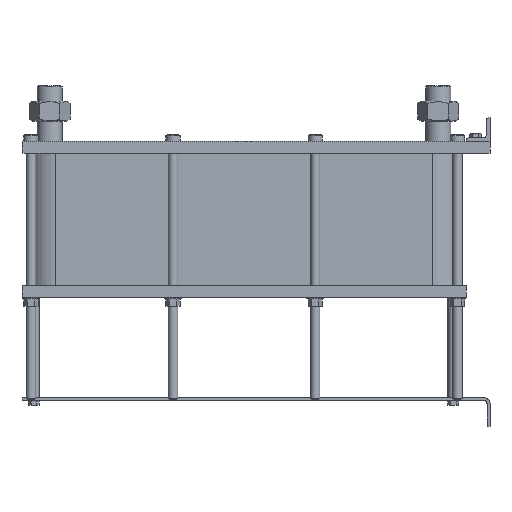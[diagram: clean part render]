
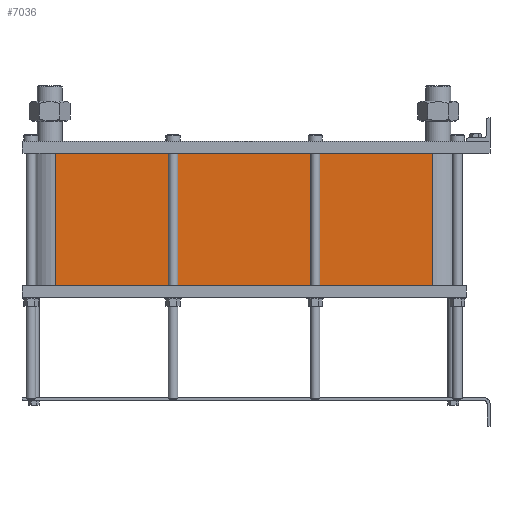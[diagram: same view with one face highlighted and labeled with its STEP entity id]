
A CAD part, left-side view. The second image highlights one B-rep face of the part: STEP entity #7036.
In plain terms, the highlighted planar face has unit normal (-1, 0, 0).
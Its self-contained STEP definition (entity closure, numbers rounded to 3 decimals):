
#999=LINE('',#15640,#1553);
#1031=LINE('',#15723,#1585);
#1032=LINE('',#15726,#1586);
#1033=LINE('',#15727,#1587);
#1553=VECTOR('',#9658,10.);
#1585=VECTOR('',#9736,10.);
#1586=VECTOR('',#9741,10.);
#1587=VECTOR('',#9742,10.);
#2117=FACE_OUTER_BOUND('',#2671,.T.);
#2671=EDGE_LOOP('',(#6246,#6247,#6248,#6249));
#3527=VERTEX_POINT('',#15634);
#3529=VERTEX_POINT('',#15638);
#3556=VERTEX_POINT('',#15720);
#3557=VERTEX_POINT('',#15722);
#4425=EDGE_CURVE('',#3529,#3527,#999,.T.);
#4466=EDGE_CURVE('',#3557,#3556,#1031,.T.);
#4468=EDGE_CURVE('',#3527,#3556,#1032,.T.);
#4469=EDGE_CURVE('',#3557,#3529,#1033,.T.);
#6246=ORIENTED_EDGE('',*,*,#4468,.F.);
#6247=ORIENTED_EDGE('',*,*,#4425,.F.);
#6248=ORIENTED_EDGE('',*,*,#4469,.F.);
#6249=ORIENTED_EDGE('',*,*,#4466,.T.);
#6608=PLANE('',#7812);
#7036=ADVANCED_FACE('',(#2117),#6608,.T.);
#7812=AXIS2_PLACEMENT_3D('',#15725,#9739,#9740);
#9658=DIRECTION('',(0.,0.,-1.));
#9736=DIRECTION('',(0.,0.,-1.));
#9739=DIRECTION('center_axis',(-1.,0.,0.));
#9740=DIRECTION('ref_axis',(0.,1.,0.));
#9741=DIRECTION('',(0.,1.,0.));
#9742=DIRECTION('',(0.,-1.,0.));
#15634=CARTESIAN_POINT('',(-72.,97.5,-223.2));
#15638=CARTESIAN_POINT('',(-72.,97.5,0.));
#15640=CARTESIAN_POINT('',(-72.,97.5,0.));
#15720=CARTESIAN_POINT('',(-72.,733.5,-223.2));
#15722=CARTESIAN_POINT('',(-72.,733.5,0.));
#15723=CARTESIAN_POINT('',(-72.,733.5,0.));
#15725=CARTESIAN_POINT('Origin',(-72.,97.5,0.));
#15726=CARTESIAN_POINT('',(-72.,256.5,-223.2));
#15727=CARTESIAN_POINT('',(-72.,733.5,0.));
